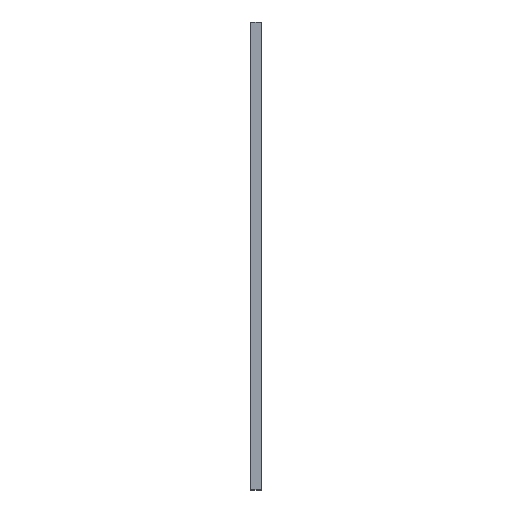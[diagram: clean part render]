
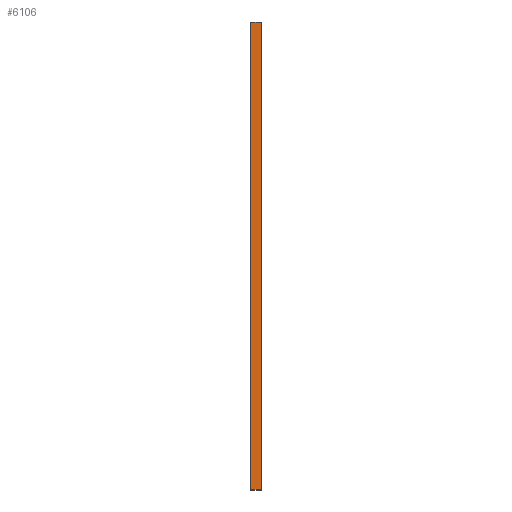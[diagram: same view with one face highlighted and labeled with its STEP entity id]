
A CAD part, top view. The second image highlights one B-rep face of the part: STEP entity #6106.
In plain terms, the highlighted planar face has unit normal (0, 0, 1).
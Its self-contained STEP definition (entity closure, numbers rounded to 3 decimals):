
#44 = PLANE('',#45);
#45 = AXIS2_PLACEMENT_3D('',#46,#47,#48);
#46 = CARTESIAN_POINT('',(28.,0.,184.));
#47 = DIRECTION('',(1.,0.,0.));
#48 = DIRECTION('',(-0.,0.,1.));
#100 = PLANE('',#101);
#101 = AXIS2_PLACEMENT_3D('',#102,#103,#104);
#102 = CARTESIAN_POINT('',(31.,0.,184.));
#103 = DIRECTION('',(1.,0.,0.));
#104 = DIRECTION('',(-0.,0.,1.));
#126 = PLANE('',#127);
#127 = AXIS2_PLACEMENT_3D('',#128,#129,#130);
#128 = CARTESIAN_POINT('',(28.,136.,137.));
#129 = DIRECTION('',(0.,-1.,0.));
#130 = DIRECTION('',(0.,0.,1.));
#166 = VERTEX_POINT('',#167);
#167 = CARTESIAN_POINT('',(28.,136.,231.));
#188 = EDGE_CURVE('',#166,#189,#191,.T.);
#189 = VERTEX_POINT('',#190);
#190 = CARTESIAN_POINT('',(28.,0.,231.));
#191 = SURFACE_CURVE('',#192,(#196,#203),.PCURVE_S1.);
#192 = LINE('',#193,#194);
#193 = CARTESIAN_POINT('',(28.,136.,231.));
#194 = VECTOR('',#195,1.);
#195 = DIRECTION('',(0.,-1.,0.));
#196 = PCURVE('',#44,#197);
#197 = DEFINITIONAL_REPRESENTATION('',(#198),#202);
#198 = LINE('',#199,#200);
#199 = CARTESIAN_POINT('',(47.,-136.));
#200 = VECTOR('',#201,1.);
#201 = DIRECTION('',(0.,1.));
#202 = ( GEOMETRIC_REPRESENTATION_CONTEXT(2) 
PARAMETRIC_REPRESENTATION_CONTEXT() REPRESENTATION_CONTEXT('2D SPACE',''
  ) );
#203 = PCURVE('',#204,#209);
#204 = PLANE('',#205);
#205 = AXIS2_PLACEMENT_3D('',#206,#207,#208);
#206 = CARTESIAN_POINT('',(28.,136.,231.));
#207 = DIRECTION('',(0.,0.,-1.));
#208 = DIRECTION('',(0.,-1.,0.));
#209 = DEFINITIONAL_REPRESENTATION('',(#210),#214);
#210 = LINE('',#211,#212);
#211 = CARTESIAN_POINT('',(0.,-0.));
#212 = VECTOR('',#213,1.);
#213 = DIRECTION('',(1.,0.));
#214 = ( GEOMETRIC_REPRESENTATION_CONTEXT(2) 
PARAMETRIC_REPRESENTATION_CONTEXT() REPRESENTATION_CONTEXT('2D SPACE',''
  ) );
#232 = PLANE('',#233);
#233 = AXIS2_PLACEMENT_3D('',#234,#235,#236);
#234 = CARTESIAN_POINT('',(20.,0.,130.));
#235 = DIRECTION('',(-0.,1.,0.));
#236 = DIRECTION('',(0.,0.,1.));
#1619 = VERTEX_POINT('',#1620);
#1620 = CARTESIAN_POINT('',(31.,136.,231.));
#1641 = EDGE_CURVE('',#166,#1619,#1642,.T.);
#1642 = SURFACE_CURVE('',#1643,(#1647,#1654),.PCURVE_S1.);
#1643 = LINE('',#1644,#1645);
#1644 = CARTESIAN_POINT('',(28.,136.,231.));
#1645 = VECTOR('',#1646,1.);
#1646 = DIRECTION('',(1.,0.,0.));
#1647 = PCURVE('',#126,#1648);
#1648 = DEFINITIONAL_REPRESENTATION('',(#1649),#1653);
#1649 = LINE('',#1650,#1651);
#1650 = CARTESIAN_POINT('',(94.,0.));
#1651 = VECTOR('',#1652,1.);
#1652 = DIRECTION('',(0.,-1.));
#1653 = ( GEOMETRIC_REPRESENTATION_CONTEXT(2) 
PARAMETRIC_REPRESENTATION_CONTEXT() REPRESENTATION_CONTEXT('2D SPACE',''
  ) );
#1654 = PCURVE('',#204,#1655);
#1655 = DEFINITIONAL_REPRESENTATION('',(#1656),#1660);
#1656 = LINE('',#1657,#1658);
#1657 = CARTESIAN_POINT('',(0.,-0.));
#1658 = VECTOR('',#1659,1.);
#1659 = DIRECTION('',(0.,-1.));
#1660 = ( GEOMETRIC_REPRESENTATION_CONTEXT(2) 
PARAMETRIC_REPRESENTATION_CONTEXT() REPRESENTATION_CONTEXT('2D SPACE',''
  ) );
#1691 = EDGE_CURVE('',#1619,#1692,#1694,.T.);
#1692 = VERTEX_POINT('',#1693);
#1693 = CARTESIAN_POINT('',(31.,0.,231.));
#1694 = SURFACE_CURVE('',#1695,(#1699,#1706),.PCURVE_S1.);
#1695 = LINE('',#1696,#1697);
#1696 = CARTESIAN_POINT('',(31.,136.,231.));
#1697 = VECTOR('',#1698,1.);
#1698 = DIRECTION('',(0.,-1.,0.));
#1699 = PCURVE('',#100,#1700);
#1700 = DEFINITIONAL_REPRESENTATION('',(#1701),#1705);
#1701 = LINE('',#1702,#1703);
#1702 = CARTESIAN_POINT('',(47.,-136.));
#1703 = VECTOR('',#1704,1.);
#1704 = DIRECTION('',(0.,1.));
#1705 = ( GEOMETRIC_REPRESENTATION_CONTEXT(2) 
PARAMETRIC_REPRESENTATION_CONTEXT() REPRESENTATION_CONTEXT('2D SPACE',''
  ) );
#1706 = PCURVE('',#204,#1707);
#1707 = DEFINITIONAL_REPRESENTATION('',(#1708),#1712);
#1708 = LINE('',#1709,#1710);
#1709 = CARTESIAN_POINT('',(0.,-3.));
#1710 = VECTOR('',#1711,1.);
#1711 = DIRECTION('',(1.,0.));
#1712 = ( GEOMETRIC_REPRESENTATION_CONTEXT(2) 
PARAMETRIC_REPRESENTATION_CONTEXT() REPRESENTATION_CONTEXT('2D SPACE',''
  ) );
#6085 = EDGE_CURVE('',#189,#1692,#6086,.T.);
#6086 = SURFACE_CURVE('',#6087,(#6091,#6098),.PCURVE_S1.);
#6087 = LINE('',#6088,#6089);
#6088 = CARTESIAN_POINT('',(24.,0.,231.));
#6089 = VECTOR('',#6090,1.);
#6090 = DIRECTION('',(1.,0.,0.));
#6091 = PCURVE('',#232,#6092);
#6092 = DEFINITIONAL_REPRESENTATION('',(#6093),#6097);
#6093 = LINE('',#6094,#6095);
#6094 = CARTESIAN_POINT('',(101.,4.));
#6095 = VECTOR('',#6096,1.);
#6096 = DIRECTION('',(0.,1.));
#6097 = ( GEOMETRIC_REPRESENTATION_CONTEXT(2) 
PARAMETRIC_REPRESENTATION_CONTEXT() REPRESENTATION_CONTEXT('2D SPACE',''
  ) );
#6098 = PCURVE('',#204,#6099);
#6099 = DEFINITIONAL_REPRESENTATION('',(#6100),#6104);
#6100 = LINE('',#6101,#6102);
#6101 = CARTESIAN_POINT('',(136.,4.));
#6102 = VECTOR('',#6103,1.);
#6103 = DIRECTION('',(0.,-1.));
#6104 = ( GEOMETRIC_REPRESENTATION_CONTEXT(2) 
PARAMETRIC_REPRESENTATION_CONTEXT() REPRESENTATION_CONTEXT('2D SPACE',''
  ) );
#6106 = ADVANCED_FACE('',(#6107),#204,.F.);
#6107 = FACE_BOUND('',#6108,.F.);
#6108 = EDGE_LOOP('',(#6109,#6110,#6111,#6112));
#6109 = ORIENTED_EDGE('',*,*,#188,.F.);
#6110 = ORIENTED_EDGE('',*,*,#1641,.T.);
#6111 = ORIENTED_EDGE('',*,*,#1691,.T.);
#6112 = ORIENTED_EDGE('',*,*,#6085,.F.);
